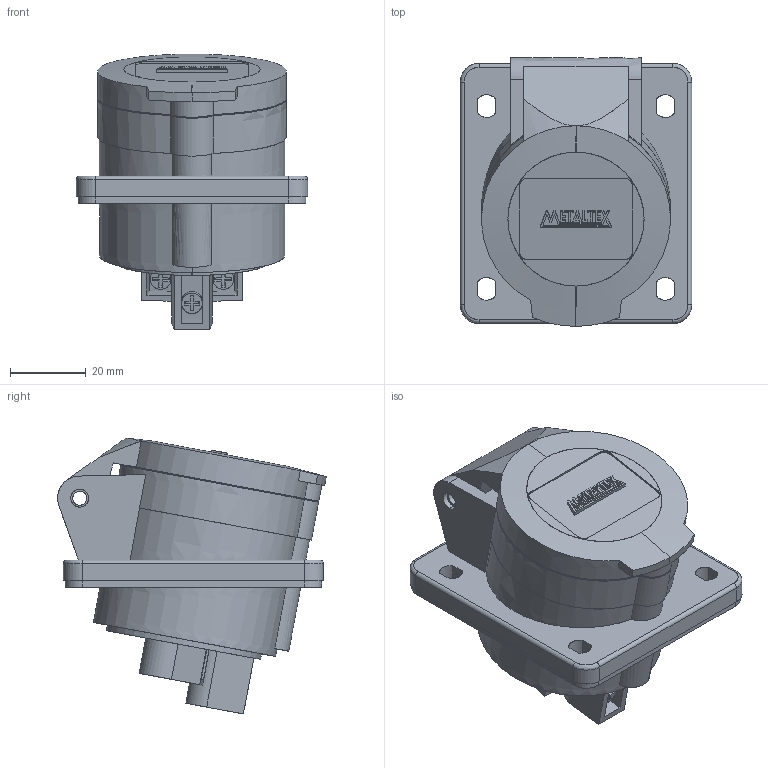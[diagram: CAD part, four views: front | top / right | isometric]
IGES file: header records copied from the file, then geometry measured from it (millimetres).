
Start section: SolidWorks IGES file using analytic representation for surfaces
Global section: file name: D:\X - Arquivos\PROEX\Empresas\P11 - METALTEX\01 - Produtos\IGES\4ª remessa\2ª etapa\TLI16432.IGS; native system: SolidWorks 2012; preprocessor: SolidWorks 2012; author: Usuario; date: 180405.175529; units: millimetre
Bounding box: 61.2 x 71.08 x 72.95 mm (x, y, z)
Surface area: 23896.2 mm2 (no closed solid volume)
Topology: 0 solids, 0 shells, 345 faces, 4342 edges, 4342 vertices
Faces by surface type: bspline 250, revolution 95
